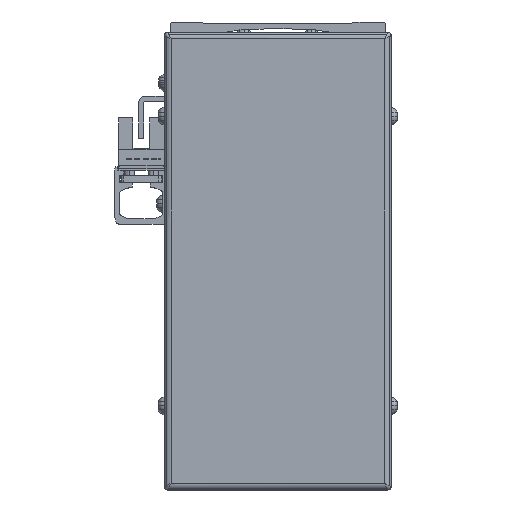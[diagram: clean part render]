
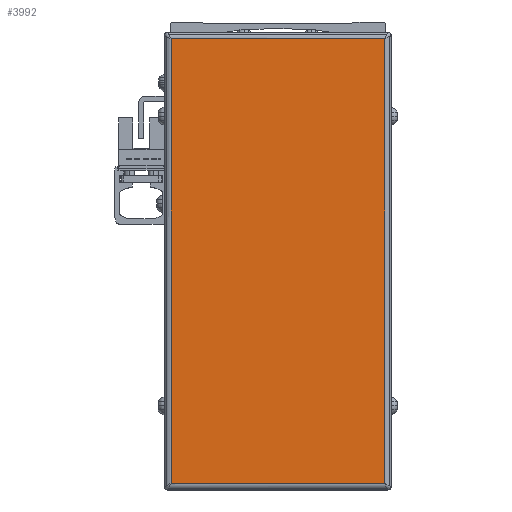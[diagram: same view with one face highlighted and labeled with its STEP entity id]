
A CAD part, front view. The second image highlights one B-rep face of the part: STEP entity #3992.
In plain terms, the highlighted planar face has unit normal (0, -1, 0).
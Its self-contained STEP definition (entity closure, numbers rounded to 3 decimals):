
#3992=ADVANCED_FACE('',(#9398),#9399,.T.);
#9398=FACE_OUTER_BOUND('',#16929,.T.);
#9399=PLANE('',#16930);
#16929=EDGE_LOOP('',(#28242,#28243,#28244,#28245));
#16930=AXIS2_PLACEMENT_3D('',#28246,#28247,#28248);
#28242=ORIENTED_EDGE('',*,*,#46686,.F.);
#28243=ORIENTED_EDGE('',*,*,#46687,.F.);
#28244=ORIENTED_EDGE('',*,*,#46688,.F.);
#28245=ORIENTED_EDGE('',*,*,#46689,.F.);
#28246=CARTESIAN_POINT('',(300.,6.,-44.));
#28247=DIRECTION('',(0.,-1.0,0.));
#28248=DIRECTION('',(0.,0.,1.0));
#46686=EDGE_CURVE('',#57030,#57031,#57032,.T.);
#46687=EDGE_CURVE('',#56312,#57030,#57033,.T.);
#46688=EDGE_CURVE('',#57034,#56312,#57035,.T.);
#46689=EDGE_CURVE('',#57031,#57034,#57036,.T.);
#56312=VERTEX_POINT('',#69977);
#57030=VERTEX_POINT('',#70954);
#57031=VERTEX_POINT('',#70955);
#57032=LINE('',#70956,#70957);
#57033=LINE('',#70958,#70959);
#57034=VERTEX_POINT('',#70960);
#57035=LINE('',#70961,#70962);
#57036=LINE('',#70963,#70964);
#69977=CARTESIAN_POINT('',(268.3,6.,-110.));
#70954=CARTESIAN_POINT('',(268.3,6.,22.));
#70955=CARTESIAN_POINT('',(331.7,6.,22.));
#70956=CARTESIAN_POINT('',(300.,6.,22.));
#70957=VECTOR('',#84224,10.0);
#70958=CARTESIAN_POINT('',(268.3,6.,-44.));
#70959=VECTOR('',#84225,10.0);
#70960=CARTESIAN_POINT('',(331.7,6.,-110.));
#70961=CARTESIAN_POINT('',(300.,6.,-110.));
#70962=VECTOR('',#84226,10.0);
#70963=CARTESIAN_POINT('',(331.7,6.,-44.));
#70964=VECTOR('',#84227,10.0);
#84224=DIRECTION('',(1.0,0.,0.));
#84225=DIRECTION('',(0.,0.,1.0));
#84226=DIRECTION('',(-1.0,0.,0.));
#84227=DIRECTION('',(0.,0.,-1.0));
